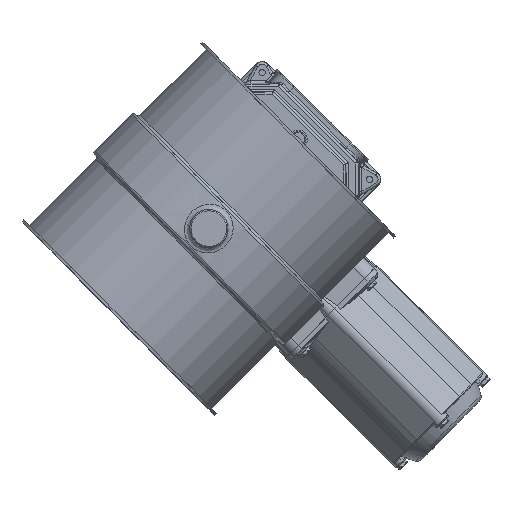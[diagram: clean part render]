
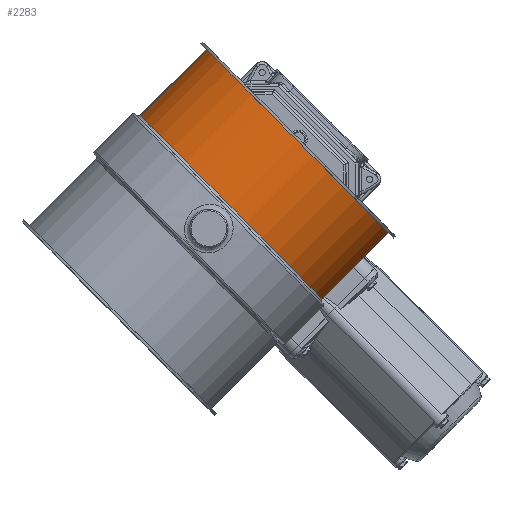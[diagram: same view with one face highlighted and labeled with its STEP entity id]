
A CAD part, top view. The second image highlights one B-rep face of the part: STEP entity #2283.
In plain terms, the highlighted cylindrical face has radius 101.5 mm (diameter 203 mm), a full revolution.
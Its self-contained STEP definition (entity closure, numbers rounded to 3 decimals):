
#1928=CARTESIAN_POINT('',(0.,198.041,0.));
#1929=VERTEX_POINT('',#1928);
#1930=CARTESIAN_POINT('',(-101.5,198.041,0.0));
#1931=DIRECTION('',(0.0,-1.0,0.0));
#1932=DIRECTION('',(1.0,0.0,0.0));
#1933=AXIS2_PLACEMENT_3D('',#1930,#1931,#1932);
#1934=CIRCLE('',#1933,101.5);
#1935=EDGE_CURVE('',#1929,#1929,#1934,.T.);
#2004=CARTESIAN_POINT('',(0.,124.541,0.0));
#2005=VERTEX_POINT('',#2004);
#2006=CARTESIAN_POINT('',(-101.5,124.541,0.0));
#2007=DIRECTION('',(0.0,-1.0,0.0));
#2008=DIRECTION('',(1.0,0.0,0.0));
#2009=AXIS2_PLACEMENT_3D('',#2006,#2007,#2008);
#2010=CIRCLE('',#2009,101.5);
#2011=EDGE_CURVE('',#2005,#2005,#2010,.T.);
#2272=CARTESIAN_POINT('',(-101.5,162.291,0.0));
#2273=DIRECTION('',(0.0,-1.0,0.0));
#2274=DIRECTION('',(1.0,0.0,0.0));
#2275=AXIS2_PLACEMENT_3D('',#2272,#2273,#2274);
#2276=CYLINDRICAL_SURFACE('',#2275,101.5);
#2277=ORIENTED_EDGE('',*,*,#1935,.T.);
#2278=EDGE_LOOP('',(#2277));
#2279=FACE_OUTER_BOUND('',#2278,.T.);
#2280=ORIENTED_EDGE('',*,*,#2011,.F.);
#2281=EDGE_LOOP('',(#2280));
#2282=FACE_BOUND('',#2281,.T.);
#2283=ADVANCED_FACE('',(#2279,#2282),#2276,.T.);
